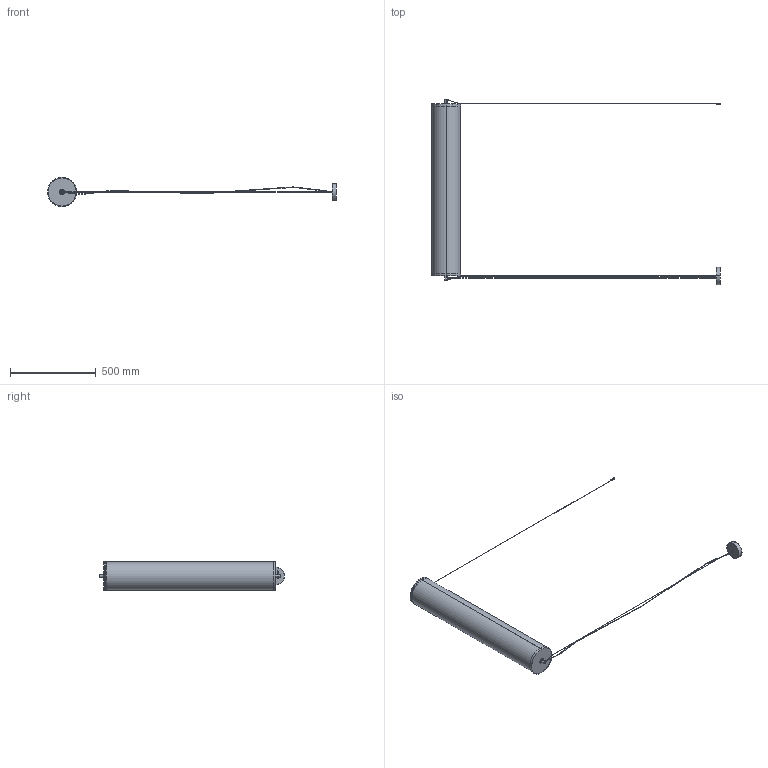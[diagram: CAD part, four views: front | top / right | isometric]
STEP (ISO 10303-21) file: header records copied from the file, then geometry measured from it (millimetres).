
FILE_DESCRIPTION (( 'STEP AP214' ), '1' );
FILE_NAME ('C1276_L_H.STEP', '2023-07-20T10:44:36', ( '' ), ( '' ), 'SwSTEP 2.0', 'SolidWorks 2018', '' );
FILE_SCHEMA (( 'AUTOMOTIVE_DESIGN' ));
Length unit declared in the file: millimetre
Products named in the file (1): C1276_L_H
Bounding box: 1687 x 1080.44 x 170 mm (x, y, z)
Volume: 1663611.7 mm3; surface area: 1360845.3 mm2
Topology: 20 solids, 20 shells, 161 faces, 324 edges, 200 vertices
Faces by surface type: cylinder 87, plane 54, torus 20
Entity records: 4417 total; most frequent: DIRECTION 826, CARTESIAN_POINT 702, ORIENTED_EDGE 632, AXIS2_PLACEMENT_3D 356, EDGE_CURVE 316, VERTEX_POINT 200, CIRCLE 194, EDGE_LOOP 178
